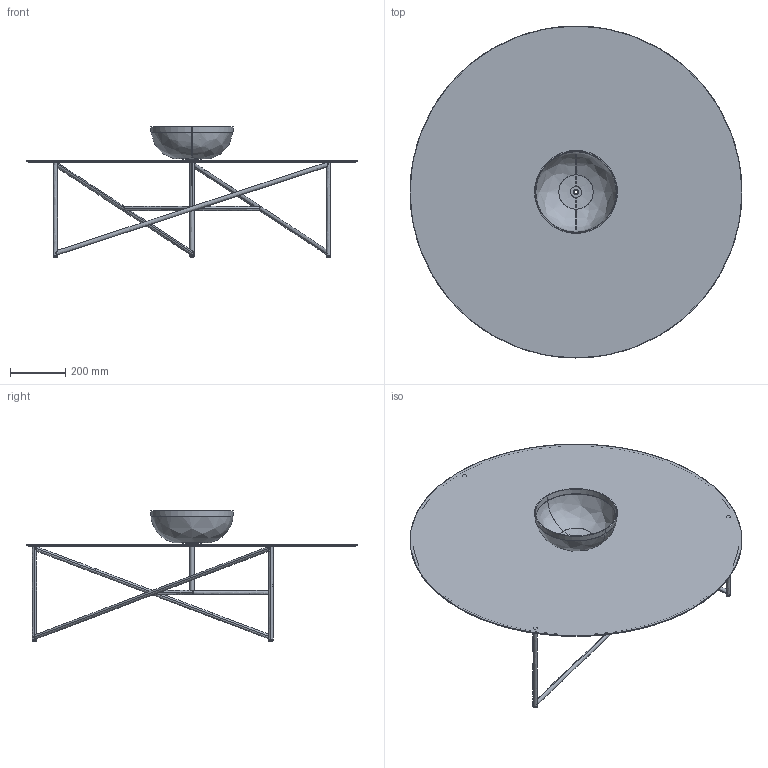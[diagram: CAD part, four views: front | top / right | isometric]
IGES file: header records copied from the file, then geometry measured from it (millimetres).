
Start section: SolidWorks IGES file using analytic representation for surfaces
Global section: file name: \\utenti\Dati Utenti\Tecnico\DC\2D - 3D per sito\3D\DeCastelli-3D-Parsec 120 V.igs; native system: SolidWorks 2022; preprocessor: SolidWorks 2022; author: Simonep; date: 240729.120442; units: millimetre
Bounding box: 1200 x 1200 x 471.57 mm (x, y, z)
Surface area: 3888078.1 mm2 (no closed solid volume)
Topology: 0 solids, 0 shells, 80 faces, 1799 edges, 1793 vertices
Faces by surface type: bspline 42, revolution 38
